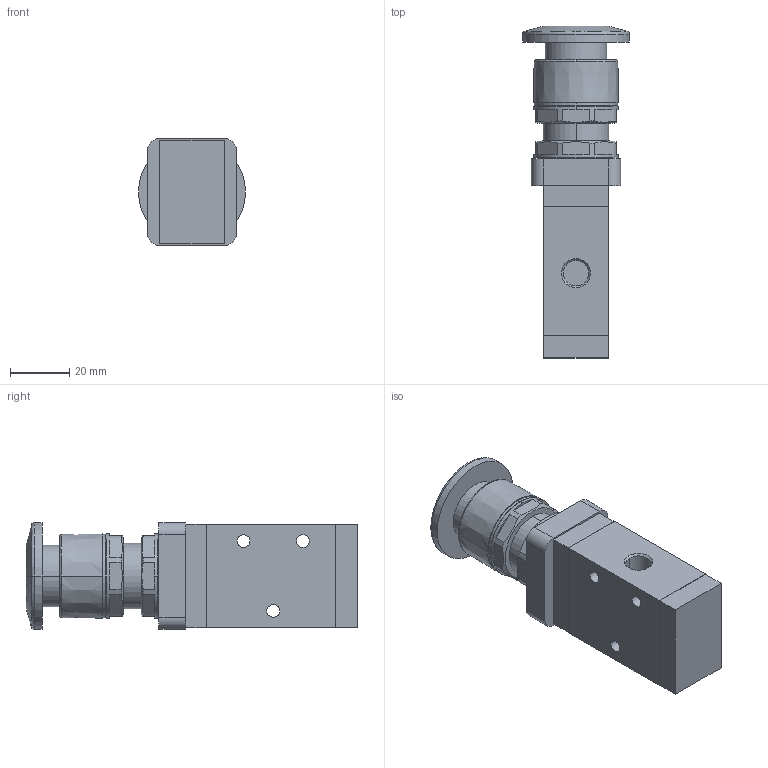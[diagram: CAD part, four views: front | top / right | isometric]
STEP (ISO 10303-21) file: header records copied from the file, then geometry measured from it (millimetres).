
FILE_DESCRIPTION (( 'STEP AP214' ), '1' );
FILE_NAME ('M3-PM-210-06-B (3D).STEP', '2019-11-13T09:34:39', ( '' ), ( '' ), 'SwSTEP 2.0', 'SolidWorks 2016', '' );
FILE_SCHEMA (( 'AUTOMOTIVE_DESIGN' ));
Length unit declared in the file: millimetre
Products named in the file (5): _PP Type Base; M3-PM-210-06-B (3D); _Fix nut; M3-B-210-06-G (3D)_M3-PM-210-06-G; _PM-B Type Button
Assembly tree (5 placements, depth 2):
  M3-PM-210-06-B (3D)
    _PP Type Base
    _Fix nut  x2
    _PM-B Type Button
    M3-B-210-06-G (3D)_M3-PM-210-06-G
Bounding box: 36 x 111.7 x 36 mm (x, y, z)
Volume: 77575.1 mm3; surface area: 23718.6 mm2
Topology: 5 solids, 5 shells, 405 faces, 1034 edges, 682 vertices
Faces by surface type: plane 250, bspline 83, cylinder 46, cone 26
Entity records: 18498 total; most frequent: CARTESIAN_POINT 6777, ORIENTED_EDGE 1908, DIRECTION 1516, EDGE_CURVE 954, VECTOR 658, LINE 658, VERTEX_POINT 630, AXIS2_PLACEMENT_3D 429
